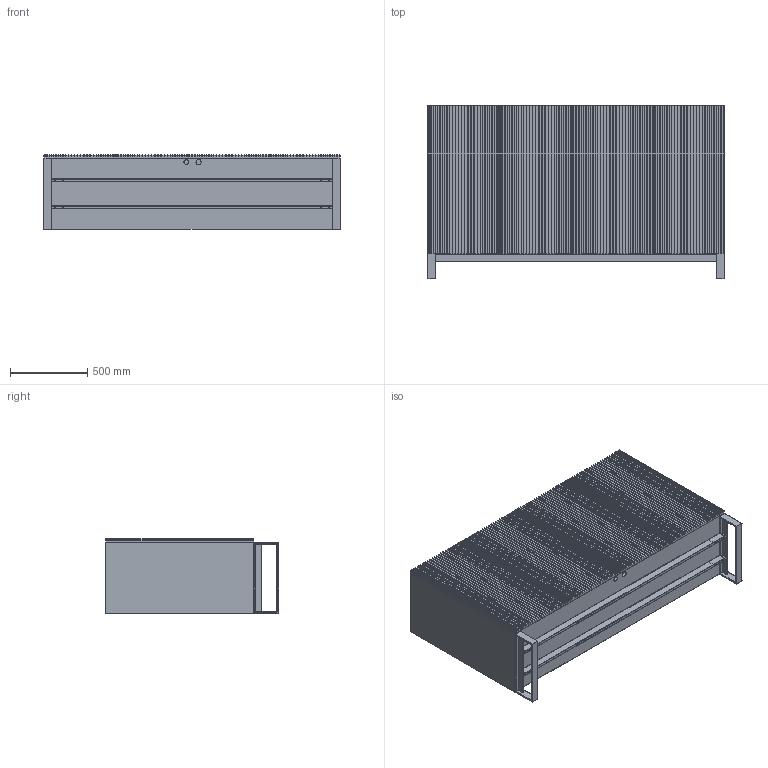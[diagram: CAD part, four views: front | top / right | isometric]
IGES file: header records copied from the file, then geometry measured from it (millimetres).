
Start section: SolidWorks IGES file using analytic representation for surfaces
Global section: file name: C:\Users\serena.trevisiol\Desktop\Nuova cartella\CARLOS cm 192X49X112H.IGS; native system: SolidWorks 2016; preprocessor: SolidWorks 2016; author: serena.trevisiol; date: 160609.090940; units: millimetre
Bounding box: 1920 x 1120 x 484 mm (x, y, z)
Surface area: 21952634.1 mm2 (no closed solid volume)
Topology: 0 solids, 0 shells, 1488 faces, 8592 edges, 8584 vertices
Faces by surface type: bspline 1404, revolution 84
